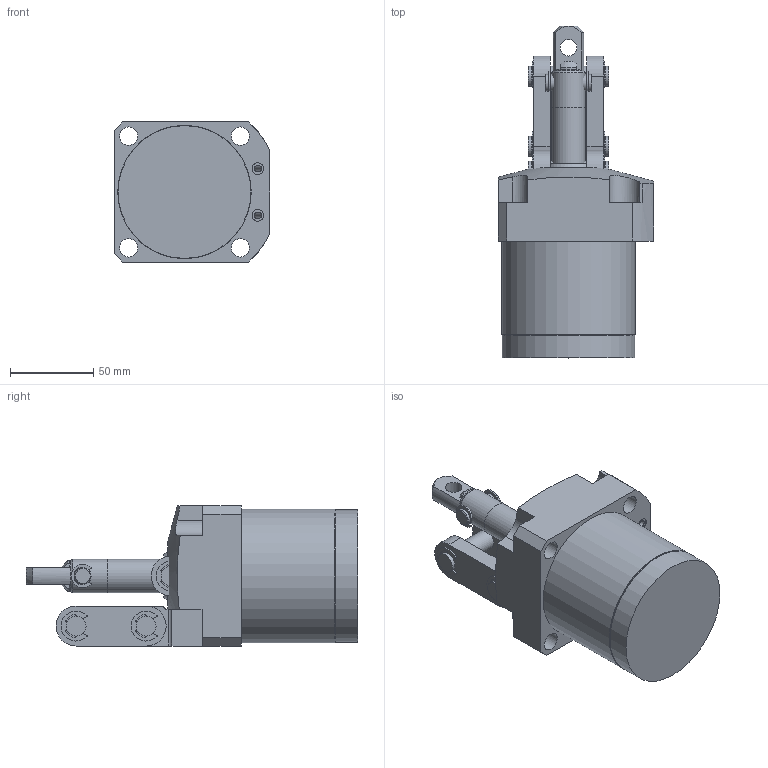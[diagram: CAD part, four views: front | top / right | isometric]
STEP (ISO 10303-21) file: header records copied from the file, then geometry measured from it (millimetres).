
FILE_DESCRIPTION( ( '' ), '1' );
FILE_NAME( 'W:/Catalogue/JL5H/JL5H52-34GR/JL5H52-34GR.stp', '2008-05-26T02:10:10', ( '機械事業部産業機器グループ' ), ( '豊和工業株式会社' ), 'XStep 1.0', ' ', ' ' );
FILE_SCHEMA( ( 'CONFIG_CONTROL_DESIGN' ) );
Length unit declared in the file: millimetre
Products named in the file (6): Assem1; 1; 2; 3; 4; 5
Bounding box: 93 x 199 x 84 mm (x, y, z)
Volume: 1241118.7 mm3; surface area: 195300 mm2
Topology: 11 solids, 15 shells, 576 faces, 1491 edges, 975 vertices
Faces by surface type: plane 318, cylinder 218, cone 38, torus 2
Full cylindrical faces by diameter (mm): 2 x2, 4 x4, 7 x8, 9 x10, 10 x8, 11 x12, 12 x14, 18.5 x2, 20 x4, 22 x2, 27 x2, 32 x4, 52 x4, 79 x2, 79.7 x2, 80 x2
Entity records: 8758 total; most frequent: CARTESIAN_POINT 1737, DIRECTION 1478, ORIENTED_EDGE 1288, EDGE_CURVE 644, AXIS2_PLACEMENT_3D 575, VERTEX_POINT 454, EDGE_LOOP 380, LINE 328
